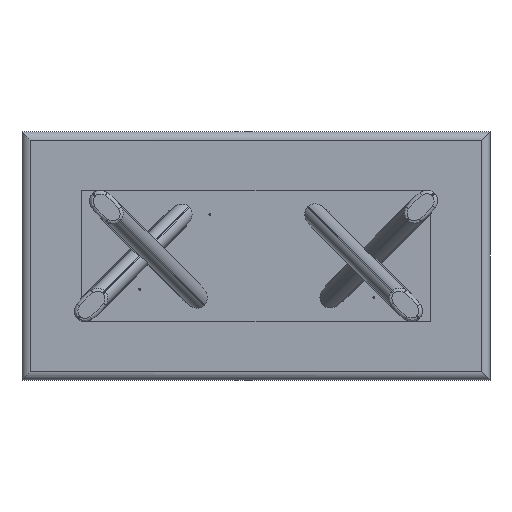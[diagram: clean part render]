
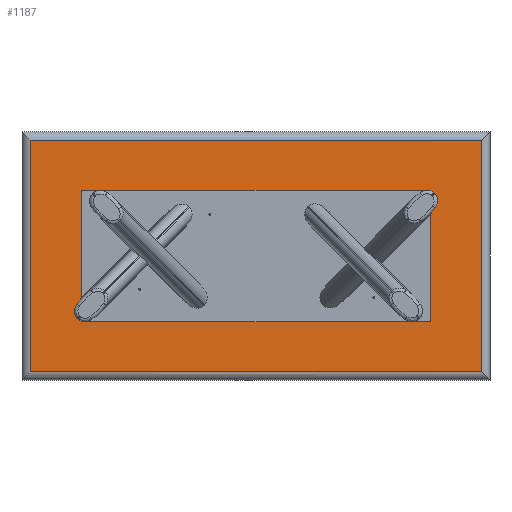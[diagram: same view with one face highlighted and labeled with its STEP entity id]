
A CAD part, front view. The second image highlights one B-rep face of the part: STEP entity #1187.
In plain terms, the highlighted planar face has unit normal (0, -1, 0).
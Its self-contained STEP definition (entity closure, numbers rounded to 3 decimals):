
#89 = CARTESIAN_POINT ( 'NONE',  ( -964., 40., -530. ) ) ;
#171 = DIRECTION ( 'NONE',  ( 0., 0., 1. ) ) ;
#185 = VERTEX_POINT ( 'NONE', #1908 ) ;
#480 = VERTEX_POINT ( 'NONE', #1420 ) ;
#603 = CARTESIAN_POINT ( 'NONE',  ( -1000., 40., 494. ) ) ;
#738 = DIRECTION ( 'NONE',  ( 0., 0., -1. ) ) ;
#816 = EDGE_LOOP ( 'NONE', ( #2100, #3962, #2117, #1522 ) ) ;
#830 = EDGE_CURVE ( 'NONE', #480, #185, #4108, .T. ) ;
#922 = CARTESIAN_POINT ( 'NONE',  ( -964., 40., 494. ) ) ;
#1024 = EDGE_CURVE ( 'NONE', #1229, #2921, #2956, .T. ) ;
#1052 = CARTESIAN_POINT ( 'NONE',  ( 1000., 40., -494. ) ) ;
#1187 = ADVANCED_FACE ( 'NONE', ( #3860 ), #3897, .T. ) ;
#1229 = VERTEX_POINT ( 'NONE', #1256 ) ;
#1256 = CARTESIAN_POINT ( 'NONE',  ( 964., 40., 494. ) ) ;
#1291 = VECTOR ( 'NONE', #3714, 1000. ) ;
#1420 = CARTESIAN_POINT ( 'NONE',  ( -964., 40., -494. ) ) ;
#1434 = AXIS2_PLACEMENT_3D ( 'NONE', #2161, #3518, #1826 ) ;
#1522 = ORIENTED_EDGE ( 'NONE', *, *, #1024, .T. ) ;
#1664 = EDGE_CURVE ( 'NONE', #185, #1229, #3603, .T. ) ;
#1826 = DIRECTION ( 'NONE',  ( 0., 0., -1. ) ) ;
#1908 = CARTESIAN_POINT ( 'NONE',  ( 964., 40., -494. ) ) ;
#2005 = DIRECTION ( 'NONE',  ( -1., 0., 0. ) ) ;
#2100 = ORIENTED_EDGE ( 'NONE', *, *, #2333, .T. ) ;
#2117 = ORIENTED_EDGE ( 'NONE', *, *, #1664, .T. ) ;
#2161 = CARTESIAN_POINT ( 'NONE',  ( 0., 40., 0. ) ) ;
#2333 = EDGE_CURVE ( 'NONE', #2921, #480, #3764, .T. ) ;
#2728 = VECTOR ( 'NONE', #738, 1000. ) ;
#2921 = VERTEX_POINT ( 'NONE', #922 ) ;
#2956 = LINE ( 'NONE', #603, #3486 ) ;
#3279 = CARTESIAN_POINT ( 'NONE',  ( 964., 40., 530. ) ) ;
#3486 = VECTOR ( 'NONE', #2005, 1000. ) ;
#3518 = DIRECTION ( 'NONE',  ( 0., -1., 0. ) ) ;
#3603 = LINE ( 'NONE', #3279, #4353 ) ;
#3714 = DIRECTION ( 'NONE',  ( 1., 0., 0. ) ) ;
#3764 = LINE ( 'NONE', #89, #2728 ) ;
#3860 = FACE_OUTER_BOUND ( 'NONE', #816, .T. ) ;
#3897 = PLANE ( 'NONE',  #1434 ) ;
#3962 = ORIENTED_EDGE ( 'NONE', *, *, #830, .T. ) ;
#4108 = LINE ( 'NONE', #1052, #1291 ) ;
#4353 = VECTOR ( 'NONE', #171, 1000. ) ;
